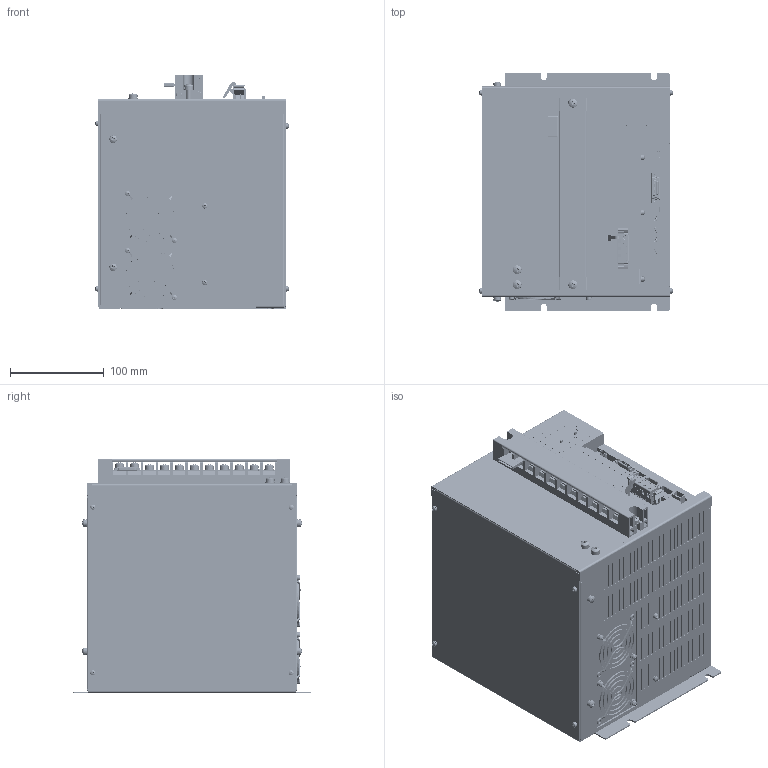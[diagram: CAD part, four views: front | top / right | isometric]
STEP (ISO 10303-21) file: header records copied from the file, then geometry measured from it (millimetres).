
FILE_DESCRIPTION (( 'STEP AP203' ), '1' );
FILE_NAME ('NCR-HB3_702#SE-97680.STEP', '2021-07-07T05:49:52', ( '' ), ( '' ), 'SwSTEP 2.0', 'SolidWorks 2018', '' );
FILE_SCHEMA (( 'CONFIG_CONTROL_DESIGN' ));
Products named in the file (1): NCR-HB3_702#SE-97680
Bounding box: 207.11 x 255 x 251 mm (x, y, z)
Volume: 10096964.8 mm3; surface area: 418995.2 mm2
Topology: 4 solids, 41 shells, 13226 faces, 35763 edges, 23306 vertices
Faces by surface type: plane 8369, cylinder 2113, bspline 1881, cone 587, torus 196, sphere 80
Entity records: 472696 total; most frequent: CARTESIAN_POINT 148262, ORIENTED_EDGE 71342, DIRECTION 60657, EDGE_CURVE 35671, VECTOR 24585, LINE 24585, VERTEX_POINT 23306, AXIS2_PLACEMENT_3D 18036
